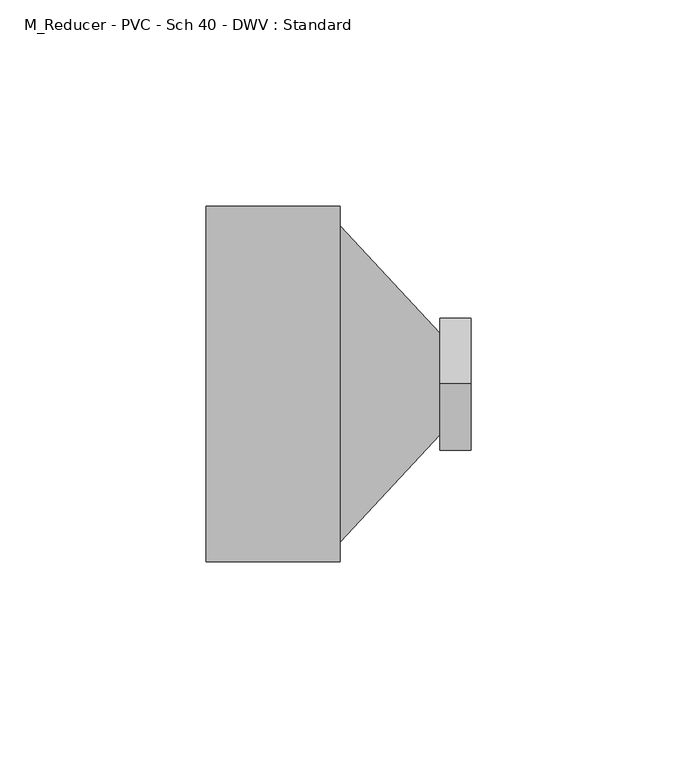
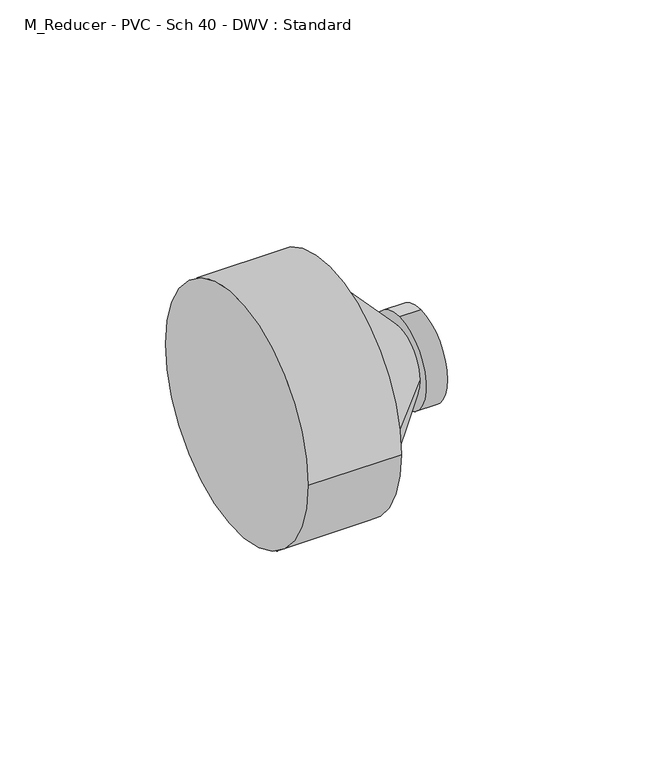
"""IFC4 building model written with IfcOpenShell, lengths in millimetres: pipe fitting geometry, M_Reducer - PVC - Sch 40 - DWV : Standard."""

from ifc_helpers import new_model, si_unit, frame, origin, place, context, project, spatial, polyline, circle_curve, source, transform, mapped, element, save
from ifc_brep_helpers import plane_surface, cylinder_surface, revolved_surface, advanced_brep


def m_reducer_pvc_sch_40_dwv_standard_ec3ee1f1(model_context):
    return source(origin(), model_context, "Body", "AdvancedBrep", [
        advanced_brep(
        [(0.0, 43.0871094, 0.0), (0.0, -43.0871094, 0.0), (32.5, 43.0871094, 0.0), (32.5, -43.0871094, 0.0), (32.5, -38.3640625, 0.0), (32.5, 38.3640625, 0.0), (56.6960938, 12.3640625, 0.0), (56.6960938, -12.3640625, 0.0), (56.6960938, 0.0, 16.0871094), (56.6960938, 0.0, -16.0871094), (64.1960938, 0.0, 16.0871094), (64.1960938, 0.0, -16.0871094)],
        [
            (0, 1, circle_curve(frame((0.0, 0.0, 0.0), z_axis=(-1.0, 0.0, 0.0), x_axis=(0.0, -1.0, 0.0)), 43.0871094)),
            (1, 0, circle_curve(frame((0.0, 0.0, 0.0), z_axis=(-1.0, 0.0, 0.0), x_axis=(0.0, -1.0, 0.0)), 43.0871094)),
            (2, 3, circle_curve(frame((32.5, 0.0, 0.0), z_axis=(1.0, 0.0, 0.0), x_axis=(0.0, -1.0, 0.0)), 43.0871094)),
            (3, 2, circle_curve(frame((32.5, 0.0, 0.0), z_axis=(1.0, 0.0, 0.0), x_axis=(0.0, -1.0, 0.0)), 43.0871094)),
            (4, 5, circle_curve(frame((32.5, 0.0, 0.0), z_axis=(-1.0, 0.0, 0.0), x_axis=(0.0, -1.0, 0.0)), 38.3640625)),
            (5, 4, circle_curve(frame((32.5, 0.0, 0.0), z_axis=(-1.0, 0.0, 0.0), x_axis=(0.0, 1.0, 0.0)), 38.3640625)),
            (1, 3),
            (2, 0),
            (5, 6),
            (6, 7, circle_curve(frame((56.6960938, 0.0, 0.0), z_axis=(-1.0, 0.0, 0.0), x_axis=(0.0, 1.0, 0.0)), 12.3640625)),
            (7, 4),
            (7, 6, circle_curve(frame((56.6960938, 0.0, 0.0), z_axis=(-1.0, 0.0, 0.0), x_axis=(0.0, -1.0, 0.0)), 12.3640625)),
            (8, 9, circle_curve(frame((56.6960938, 0.0, 0.0), z_axis=(-1.0, 0.0, 0.0), x_axis=(0.0, 0.0, -1.0)), 16.0871094)),
            (9, 8, circle_curve(frame((56.6960938, 0.0, 0.0), z_axis=(-1.0, 0.0, 0.0), x_axis=(0.0, 0.0, -1.0)), 16.0871094)),
            (10, 11, circle_curve(frame((64.1960938, 0.0, 0.0), z_axis=(1.0, 0.0, 0.0), x_axis=(0.0, 0.0, -1.0)), 16.0871094)),
            (11, 10, circle_curve(frame((64.1960938, 0.0, 0.0), z_axis=(1.0, 0.0, 0.0), x_axis=(0.0, 0.0, -1.0)), 16.0871094)),
            (9, 11),
            (10, 8),
        ],
        [
            plane_surface(frame((0.0, 0.0, 0.0), z_axis=(-1.0, 0.0, 0.0), x_axis=(0.0, 0.0, 1.0))),
            plane_surface(frame((32.5, 0.0, 0.0), z_axis=(1.0, 0.0, 0.0), x_axis=(0.0, 0.0, 1.0))),
            cylinder_surface(frame((0.0, 0.0, 0.0), z_axis=(-1.0, 0.0, 0.0), x_axis=(0.0, -1.0, 0.0)), 43.0871094),
            revolved_surface(polyline([(56.6960938, -12.36406243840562, 0.0), (32.5, -38.3640625, 0.0)]), (68.2023251, 0.0, 0.0), (-1.0, 0.0, 0.0)),
            revolved_surface(polyline([(56.6960938, 12.36406243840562, 0.0), (32.5, 38.3640625, 0.0)]), (68.2023251, 0.0, 0.0), (-1.0, 0.0, 0.0)),
            plane_surface(frame((56.6960938, 0.0, 0.0), z_axis=(-1.0, 0.0, 0.0), x_axis=(0.0, -1.0, 0.0))),
            plane_surface(frame((64.1960938, 0.0, 0.0), z_axis=(1.0, 0.0, 0.0), x_axis=(0.0, -1.0, 0.0))),
            cylinder_surface(frame((56.6960938, 0.0, 0.0), z_axis=(-1.0, 0.0, 0.0), x_axis=(0.0, 0.0, -1.0)), 16.0871094),
        ],
        [
            (0, [[1, 2]]),
            (1, [[3, 4], [5, 6]]),
            (2, [[7, -3, 8, -2]]),
            (2, [[-8, -4, -7, -1]]),
            (3, [[-6, 9, 10, 11]]),
            (4, [[12, -9, -5, -11]]),
            (5, [[13, 14], [-12, -10]]),
            (6, [[15, 16]]),
            (7, [[17, -15, 18, -14]]),
            (7, [[-18, -16, -17, -13]]),
        ],
    ),
    ])


if __name__ == "__main__":
    model = new_model("IFC4")
    model_context = context("Model", 3, world=origin())
    ifc_project = project(units=[si_unit("LENGTHUNIT", "METRE", prefix="MILLI")], contexts=[model_context])
    site = spatial("IfcSite", under=ifc_project)
    building = spatial("IfcBuilding", under=site)
    placement = place(None, origin())
    m_reducer_pvc_sch_40_dwv_standard_shape = m_reducer_pvc_sch_40_dwv_standard_ec3ee1f1(model_context)
    element("IfcPipeFitting", 1, ObjectType="M_Reducer - PVC - Sch 40 - DWV : Standard", at=placement, inside=building, context=model_context, shape_type="MappedRepresentation", body=[
        mapped(m_reducer_pvc_sch_40_dwv_standard_shape, transform((0.0, 0.0, 0.0), x_axis=(1.0, 0.0, 0.0), y_axis=(0.0, 1.0, 0.0), z_axis=(0.0, 0.0, 1.0))),
    ])
    save(model, "model.ifc")
